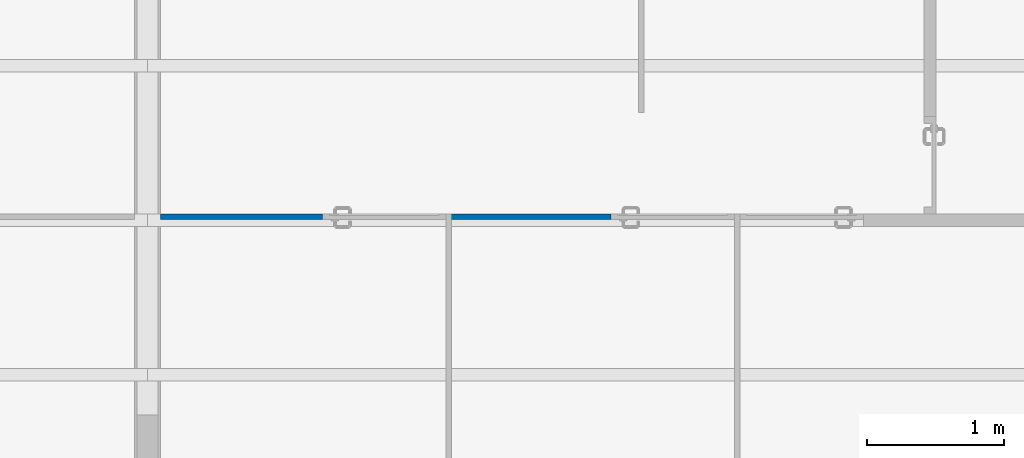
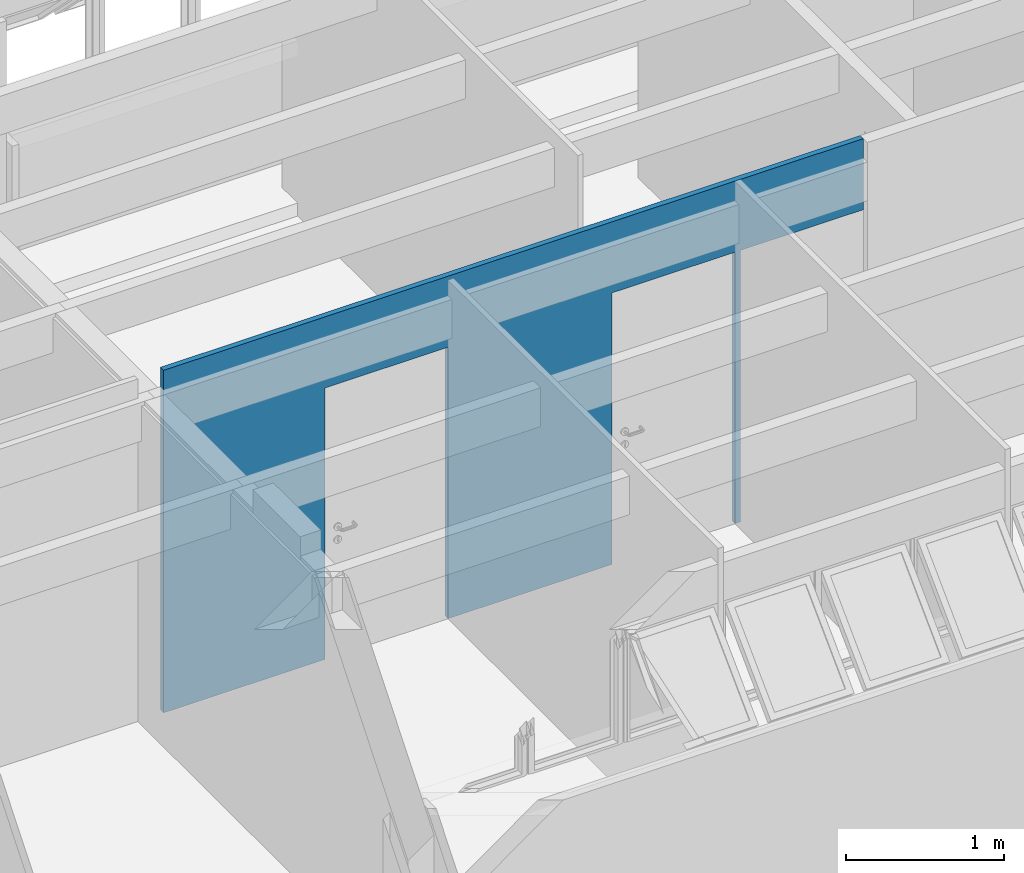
# One storey, part 23 of 40: 1 wall, 3 openings.
"""IFC4 building model written with IfcOpenShell, lengths in millimetres."""

from ifc_helpers import new_model, entity, si_unit, converted_unit, derived_unit, direction, frame, origin_with_axes, origin_2d_with_axis, place, context, subcontext, project, spatial, line, indexed_curve, rectangle, outline, extrude, material, layer, layer_set, layer_usage, type_object, element, save


model = new_model("IFC4")

# Units and contexts
model_context = context("Model", 3, precision=0.01, world=origin_with_axes(), true_north=direction((0.0, 1.0)))
body_context = subcontext(model_context, "Body", "Model", "MODEL_VIEW")
ifc_project = project(units=[si_unit("LENGTHUNIT", "METRE", prefix="MILLI"), si_unit("AREAUNIT", "SQUARE_METRE"), si_unit("VOLUMEUNIT", "CUBIC_METRE"), converted_unit("PLANEANGLEUNIT", "DEGREE", entity("IfcPlaneAngleMeasure", 0.0174532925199), si_unit("PLANEANGLEUNIT", "RADIAN"), dimensions=[0, 0, 0, 0, 0, 0, 0]), converted_unit("TIMEUNIT", "Year", entity("IfcTimeMeasure", 31556926.0), si_unit("TIMEUNIT", "SECOND"), dimensions=[0, 0, 1, 0, 0, 0, 0]), si_unit("MASSUNIT", "GRAM", prefix="KILO"), si_unit("THERMODYNAMICTEMPERATUREUNIT", "DEGREE_CELSIUS"), si_unit("LUMINOUSINTENSITYUNIT", "LUMEN"), si_unit("ENERGYUNIT", "JOULE", prefix="MEGA"), derived_unit("THERMALCONDUCTANCEUNIT", [(si_unit("POWERUNIT", "WATT"), 1), (si_unit("LENGTHUNIT", "METRE"), -1), (si_unit("THERMODYNAMICTEMPERATUREUNIT", "KELVIN"), -1)]), derived_unit("SPECIFICHEATCAPACITYUNIT", [(si_unit("ENERGYUNIT", "JOULE"), 1), (si_unit("MASSUNIT", "GRAM", prefix="KILO"), -1), (si_unit("THERMODYNAMICTEMPERATUREUNIT", "KELVIN"), -1)]), derived_unit("MASSDENSITYUNIT", [(si_unit("MASSUNIT", "GRAM", prefix="KILO"), 1), (si_unit("VOLUMEUNIT", "CUBIC_METRE"), -1)])], contexts=[model_context])

# Site, building, storey
site_placement = place(None, origin_with_axes())
site = spatial("IfcSite", under=ifc_project, at=site_placement, Name="Local", CompositionType="ELEMENT")
building_placement = place(site_placement, origin_with_axes())
building = spatial("IfcBuilding", under=site, at=building_placement, Name="Construção", CompositionType="ELEMENT")
storey_placement = place(building_placement, origin_with_axes())
storey = spatial("IfcBuildingStorey", under=building, at=storey_placement, Name="Primeiro Pavimento", CompositionType="ELEMENT", Elevation=0.0)

# Wall, openings
ifc_material = material(Name="GENÉRICO - VEDAÇÃO EXTERNA")
ifc_layer = layer(ifc_material, 40.0, ventilated="UNKNOWN", Name="GENÉRICO - VEDAÇÃO EXTERNA")
ifc_layer_set = layer_set([ifc_layer], Name="GENÉRICO - VEDAÇÃO EXTERNA 40")
ifc_layer_usage = layer_usage(ifc_layer_set, "AXIS2", "POSITIVE", 0.0)
wall_type = type_object("IfcWallType", Name="GENÉRICO - VEDAÇÃO EXTERNA 40", PredefinedType="NOTDEFINED")
wall_placement = place(storey_placement, frame((12600.0, 3765.2195667, 0.0), z_axis=(0.0, 0.0, 1.0), x_axis=(-0.99999999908, -4.28841203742e-05, 0.0)))
wall = element("IfcWall", 1, at=wall_placement, inside=storey, type_object=wall_type, material=ifc_layer_usage, Name="APTO2-PAREDE-006", PredefinedType="NOTDEFINED", context=body_context, shape_type="SweptSolid", body=[
    extrude(outline(indexed_curve([(0.0, 0.0), (5120.00000471, 0.0), (5120.00172007, 40.0), (0.000857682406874, 40.0)], segments=[line(1, 2, 3, 4, 1)])), origin_with_axes(), (0.0, 0.0, 1.0), 2650.0),
])
opening_1_placement = place(wall_placement, frame((1390.00000471, 0.0, 0.0), z_axis=(0.0, 0.0, 1.0), x_axis=(1.0, 0.0, 0.0)))
element("IfcOpeningElement", 2, at=opening_1_placement, cuts=wall, Name="APTO2-PORTA-002", context=body_context, shape_type="SweptSolid", body=[
    extrude(rectangle(XDim=900.0, YDim=2100.0, at=origin_2d_with_axis()), frame((0.0, 40.0, 1050.0), z_axis=(0.0, 1.0, 0.0), x_axis=(-1.0, 0.0, 0.0)), (0.0, 0.0, -1.0), 120.0),
])
opening_2_placement = place(wall_placement, frame((450.000004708, 0.0, 0.0), z_axis=(0.0, 0.0, 1.0), x_axis=(1.0, 0.0, 0.0)))
element("IfcOpeningElement", 3, at=opening_2_placement, cuts=wall, Name="APTO2-PORTA-001", context=body_context, shape_type="SweptSolid", body=[
    extrude(rectangle(XDim=900.0, YDim=2100.0, at=origin_2d_with_axis()), frame((0.0, 40.0, 1050.0), z_axis=(0.0, -1.0, 0.0), x_axis=(1.0, 0.0, 0.0)), (0.0, 0.0, 1.0), 120.0),
])
opening_3_placement = place(wall_placement, frame((3490.00000471, 0.0, 0.0), z_axis=(0.0, 0.0, 1.0), x_axis=(1.0, 0.0, 0.0)))
element("IfcOpeningElement", 4, at=opening_3_placement, cuts=wall, Name="APTO2-PORTA-000", context=body_context, shape_type="SweptSolid", body=[
    extrude(rectangle(XDim=900.0, YDim=2100.0, at=origin_2d_with_axis()), frame((0.0, 40.0, 1050.0), z_axis=(0.0, 1.0, 0.0), x_axis=(-1.0, 0.0, 0.0)), (0.0, 0.0, -1.0), 120.0),
])

save(model, "model.ifc")
